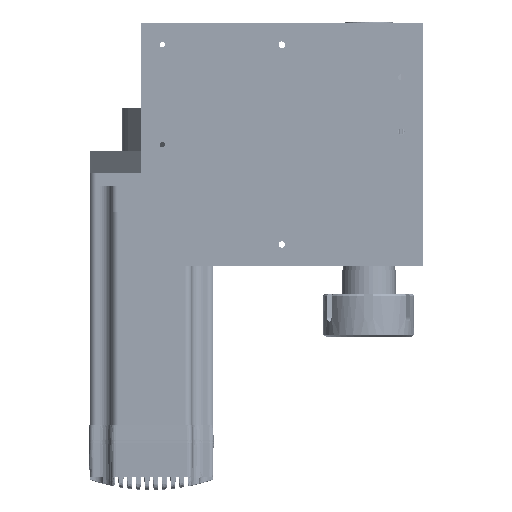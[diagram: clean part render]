
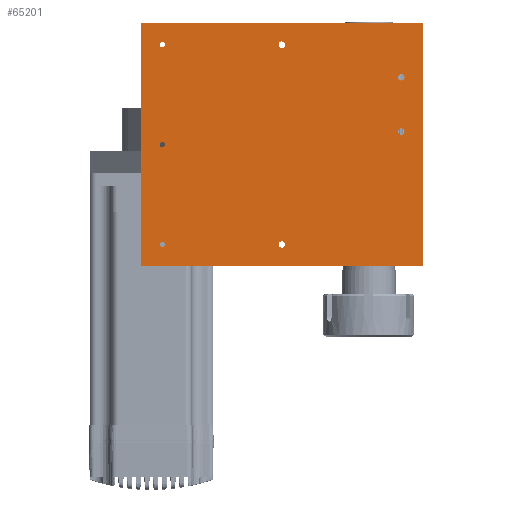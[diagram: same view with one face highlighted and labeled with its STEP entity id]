
A CAD part, front view. The second image highlights one B-rep face of the part: STEP entity #65201.
In plain terms, the highlighted planar face has unit normal (0, -1, 0) as drawn and (0, 0, -1) by its records, which use the part's own axes.
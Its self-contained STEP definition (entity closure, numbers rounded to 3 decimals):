
#2871=FACE_BOUND('',#12303,.T.);
#2872=FACE_BOUND('',#12304,.T.);
#2873=FACE_BOUND('',#12305,.T.);
#2874=FACE_BOUND('',#12306,.T.);
#2875=FACE_BOUND('',#12307,.T.);
#2876=FACE_BOUND('',#12308,.T.);
#2877=FACE_BOUND('',#12309,.T.);
#4848=PLANE('',#71663);
#8364=FACE_OUTER_BOUND('',#12302,.T.);
#12302=EDGE_LOOP('',(#60423,#60424,#60425,#60426));
#12303=EDGE_LOOP('',(#60427));
#12304=EDGE_LOOP('',(#60428));
#12305=EDGE_LOOP('',(#60429));
#12306=EDGE_LOOP('',(#60430));
#12307=EDGE_LOOP('',(#60431));
#12308=EDGE_LOOP('',(#60432));
#12309=EDGE_LOOP('',(#60433));
#18896=LINE('',#147462,#24765);
#18900=LINE('',#147470,#24769);
#18903=LINE('',#147476,#24772);
#18906=LINE('',#147481,#24775);
#24765=VECTOR('',#89314,10.);
#24769=VECTOR('',#89320,10.);
#24772=VECTOR('',#89325,10.);
#24775=VECTOR('',#89330,10.);
#27163=CIRCLE('',#71639,1.5);
#27165=CIRCLE('',#71642,1.25);
#27167=CIRCLE('',#71645,1.5);
#27169=CIRCLE('',#71648,1.5);
#27171=CIRCLE('',#71651,1.25);
#27173=CIRCLE('',#71654,1.25);
#27175=CIRCLE('',#71657,1.5);
#33097=VERTEX_POINT('',#147420);
#33099=VERTEX_POINT('',#147426);
#33101=VERTEX_POINT('',#147432);
#33103=VERTEX_POINT('',#147438);
#33105=VERTEX_POINT('',#147444);
#33107=VERTEX_POINT('',#147450);
#33109=VERTEX_POINT('',#147456);
#33110=VERTEX_POINT('',#147460);
#33111=VERTEX_POINT('',#147461);
#33114=VERTEX_POINT('',#147469);
#33116=VERTEX_POINT('',#147475);
#42201=EDGE_CURVE('',#33097,#33097,#27163,.T.);
#42204=EDGE_CURVE('',#33099,#33099,#27165,.T.);
#42207=EDGE_CURVE('',#33101,#33101,#27167,.T.);
#42210=EDGE_CURVE('',#33103,#33103,#27169,.T.);
#42213=EDGE_CURVE('',#33105,#33105,#27171,.T.);
#42216=EDGE_CURVE('',#33107,#33107,#27173,.T.);
#42219=EDGE_CURVE('',#33109,#33109,#27175,.T.);
#42220=EDGE_CURVE('',#33110,#33111,#18896,.T.);
#42224=EDGE_CURVE('',#33114,#33110,#18900,.T.);
#42227=EDGE_CURVE('',#33116,#33114,#18903,.T.);
#42230=EDGE_CURVE('',#33111,#33116,#18906,.T.);
#60423=ORIENTED_EDGE('',*,*,#42230,.F.);
#60424=ORIENTED_EDGE('',*,*,#42220,.F.);
#60425=ORIENTED_EDGE('',*,*,#42224,.F.);
#60426=ORIENTED_EDGE('',*,*,#42227,.F.);
#60427=ORIENTED_EDGE('',*,*,#42201,.T.);
#60428=ORIENTED_EDGE('',*,*,#42204,.T.);
#60429=ORIENTED_EDGE('',*,*,#42207,.T.);
#60430=ORIENTED_EDGE('',*,*,#42210,.T.);
#60431=ORIENTED_EDGE('',*,*,#42213,.T.);
#60432=ORIENTED_EDGE('',*,*,#42216,.T.);
#60433=ORIENTED_EDGE('',*,*,#42219,.T.);
#65201=ADVANCED_FACE('',(#8364,#2871,#2872,#2873,#2874,#2875,#2876,#2877),
#4848,.F.);
#71639=AXIS2_PLACEMENT_3D('',#147422,#89268,#89269);
#71642=AXIS2_PLACEMENT_3D('',#147428,#89275,#89276);
#71645=AXIS2_PLACEMENT_3D('',#147434,#89282,#89283);
#71648=AXIS2_PLACEMENT_3D('',#147440,#89289,#89290);
#71651=AXIS2_PLACEMENT_3D('',#147446,#89296,#89297);
#71654=AXIS2_PLACEMENT_3D('',#147452,#89303,#89304);
#71657=AXIS2_PLACEMENT_3D('',#147458,#89310,#89311);
#71663=AXIS2_PLACEMENT_3D('',#147484,#89334,#89335);
#89268=DIRECTION('center_axis',(0.,0.,1.));
#89269=DIRECTION('ref_axis',(1.,0.,0.));
#89275=DIRECTION('center_axis',(0.,0.,1.));
#89276=DIRECTION('ref_axis',(1.,0.,0.));
#89282=DIRECTION('center_axis',(0.,0.,1.));
#89283=DIRECTION('ref_axis',(1.,0.,0.));
#89289=DIRECTION('center_axis',(0.,0.,1.));
#89290=DIRECTION('ref_axis',(1.,0.,0.));
#89296=DIRECTION('center_axis',(0.,0.,1.));
#89297=DIRECTION('ref_axis',(1.,0.,0.));
#89303=DIRECTION('center_axis',(0.,0.,1.));
#89304=DIRECTION('ref_axis',(1.,0.,0.));
#89310=DIRECTION('center_axis',(0.,0.,1.));
#89311=DIRECTION('ref_axis',(1.,0.,0.));
#89314=DIRECTION('',(-1.,0.,0.));
#89320=DIRECTION('',(0.,1.,0.));
#89325=DIRECTION('',(1.,0.,0.));
#89330=DIRECTION('',(0.,-1.,0.));
#89334=DIRECTION('center_axis',(0.,0.,1.));
#89335=DIRECTION('ref_axis',(1.,0.,0.));
#147420=CARTESIAN_POINT('',(8.5,65.,0.));
#147422=CARTESIAN_POINT('Origin',(10.,65.,0.));
#147426=CARTESIAN_POINT('',(8.75,10.,0.));
#147428=CARTESIAN_POINT('Origin',(10.,10.,0.));
#147432=CARTESIAN_POINT('',(100.5,65.,0.));
#147434=CARTESIAN_POINT('Origin',(102.,65.,0.));
#147438=CARTESIAN_POINT('',(60.5,120.,0.));
#147440=CARTESIAN_POINT('Origin',(62.,120.,0.));
#147444=CARTESIAN_POINT('',(54.75,10.,0.));
#147446=CARTESIAN_POINT('Origin',(56.,10.,0.));
#147450=CARTESIAN_POINT('',(100.75,10.,0.));
#147452=CARTESIAN_POINT('Origin',(102.,10.,0.));
#147456=CARTESIAN_POINT('',(85.5,120.,0.));
#147458=CARTESIAN_POINT('Origin',(87.,120.,0.));
#147460=CARTESIAN_POINT('',(112.,130.,0.));
#147461=CARTESIAN_POINT('',(0.,130.,0.));
#147462=CARTESIAN_POINT('',(112.,130.,0.));
#147469=CARTESIAN_POINT('',(112.,0.,0.));
#147470=CARTESIAN_POINT('',(112.,0.,0.));
#147475=CARTESIAN_POINT('',(0.,0.,0.));
#147476=CARTESIAN_POINT('',(0.,0.,0.));
#147481=CARTESIAN_POINT('',(0.,130.,0.));
#147484=CARTESIAN_POINT('Origin',(56.,65.,0.));
